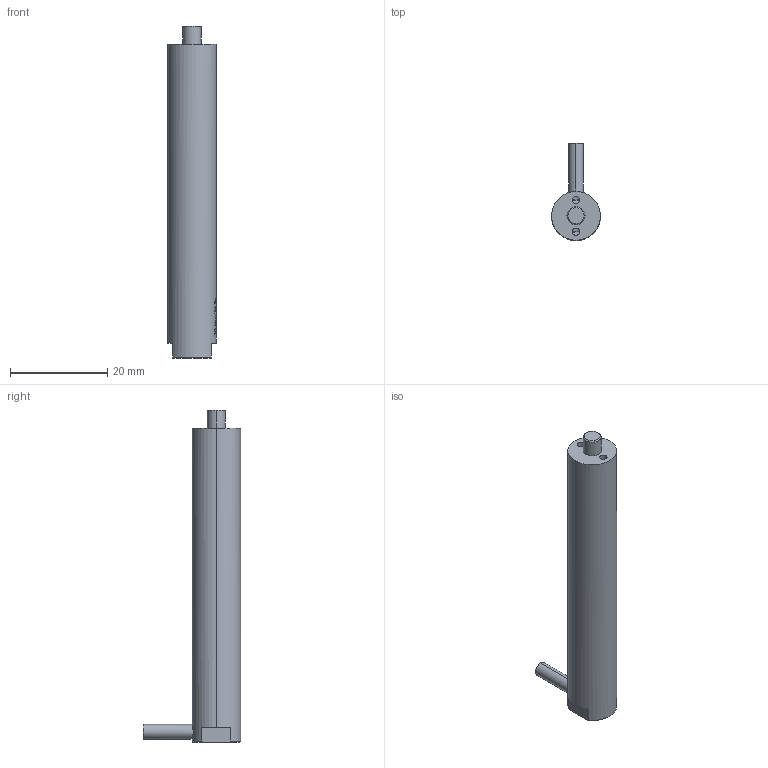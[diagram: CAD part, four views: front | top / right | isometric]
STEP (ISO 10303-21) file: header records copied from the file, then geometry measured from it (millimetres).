
FILE_DESCRIPTION (( 'STEP AP203' ), '1' );
FILE_NAME ('60VS10ƽͷ.STEP', '2024-12-10T06:28:50', ( 'daohangxitong.com' ), ( 'daohangxitong.com' ), 'SwSTEP 2.0', 'SolidWorks 2016', '' );
FILE_SCHEMA (( 'CONFIG_CONTROL_DESIGN' ));
Length unit declared in the file: millimetre
Products named in the file (1): 60VS10ƽͷ
Bounding box: 10 x 20 x 68.2 mm (x, y, z)
Volume: 5120 mm3; surface area: 2383.7 mm2
Topology: 1 solids, 1 shells, 662 faces, 1881 edges, 1246 vertices
Faces by surface type: bspline 572, cylinder 47, plane 31, cone 12
Entity records: 38485 total; most frequent: CARTESIAN_POINT 26364, ORIENTED_EDGE 3750, EDGE_CURVE 1875, B_SPLINE_CURVE_WITH_KNOTS 1755, VERTEX_POINT 1246, EDGE_LOOP 693, FACE_OUTER_BOUND 662, ADVANCED_FACE 662
